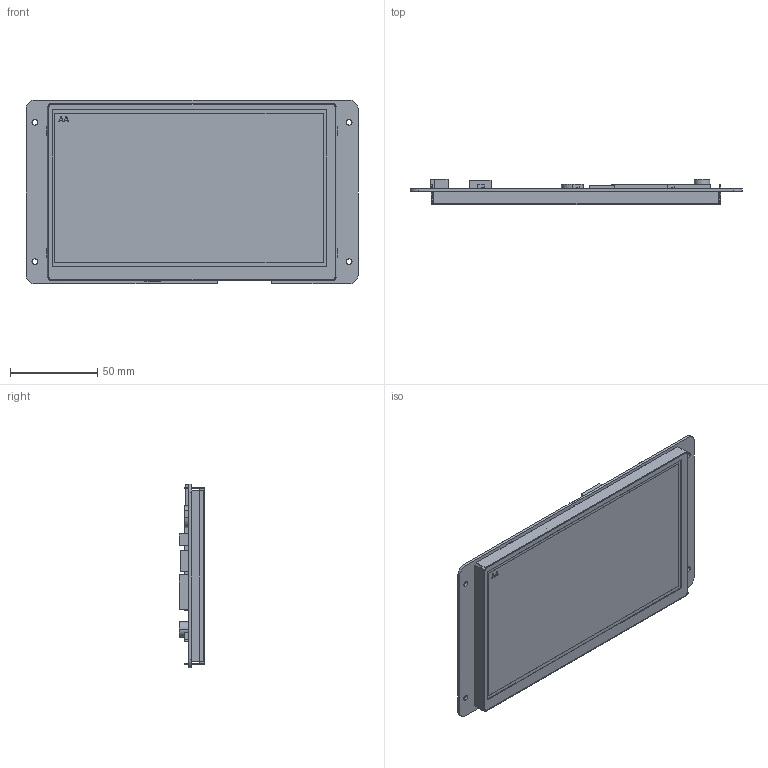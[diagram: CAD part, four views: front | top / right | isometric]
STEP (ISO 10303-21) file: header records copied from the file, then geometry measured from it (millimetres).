
FILE_DESCRIPTION((''),'2;1');
FILE_NAME('DMG10600S070-03W_ASM','2022-12-29T',('Administrator'),(''),'PRO/ENGINEER BY PARAMETRIC TECHNOLOGY CORPORATION, 2014320','PRO/ENGINEER BY PARAMETRIC TECHNOLOGY CORPORATION, 2014320','');
FILE_SCHEMA(('CONFIG_CONTROL_DESIGN','SHAPE_APPEARANCE_LAYERS_GROUPS'));
Length unit declared in the file: millimetre
Products named in the file (4): TK070011; LI10600T070IA7001; PCB221229; DMG10600S070-03W_ASM
Assembly tree (3 placements, depth 2):
  DMG10600S070-03W_ASM
    TK070011
    LI10600T070IA7001
    PCB221229
Bounding box: 190.5 x 14.6 x 105.41 mm (x, y, z)
Volume: 90404.3 mm3; surface area: 90417.2 mm2
Topology: 3 solids, 3 shells, 319 faces, 871 edges, 570 vertices
Faces by surface type: plane 222, cylinder 97
Entity records: 11775 total; most frequent: CARTESIAN_POINT 1767, ORIENTED_EDGE 1742, DIRECTION 1717, EDGE_CURVE 871, VECTOR 677, LINE 677, VERTEX_POINT 570, AXIS2_PLACEMENT_3D 520
